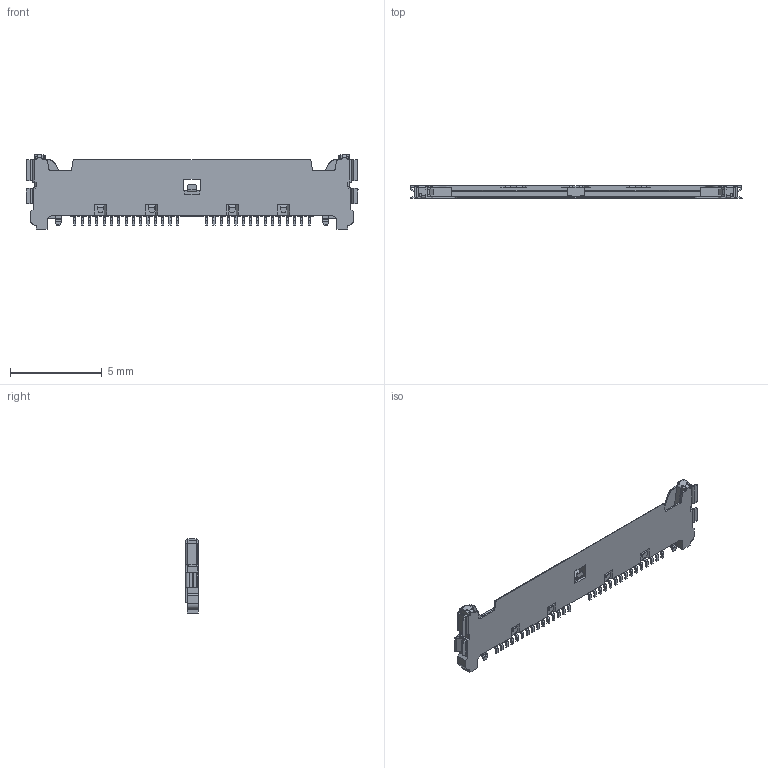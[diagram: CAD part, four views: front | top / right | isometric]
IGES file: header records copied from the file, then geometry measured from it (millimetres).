
Start section: SolidWorks IGES file using analytic representation for surfaces
Global section: file name: C:\Users\ieng2-009\Desktop\WORKING\ishimaru\180516 step_iges_30P\20729-030ExxxC RECE ASSY IGES R0 ALL.IGS; native system: SolidWorks 2017; preprocessor: SolidWorks 2017; author: ieng2-009; date: 180516.105114; units: inch
Bounding box: 18.14 x 0.7 x 4.05 mm (x, y, z)
Surface area: 177.9 mm2 (no closed solid volume)
Topology: 0 solids, 0 shells, 1059 faces, 7022 edges, 7022 vertices
Faces by surface type: bspline 737, revolution 322
